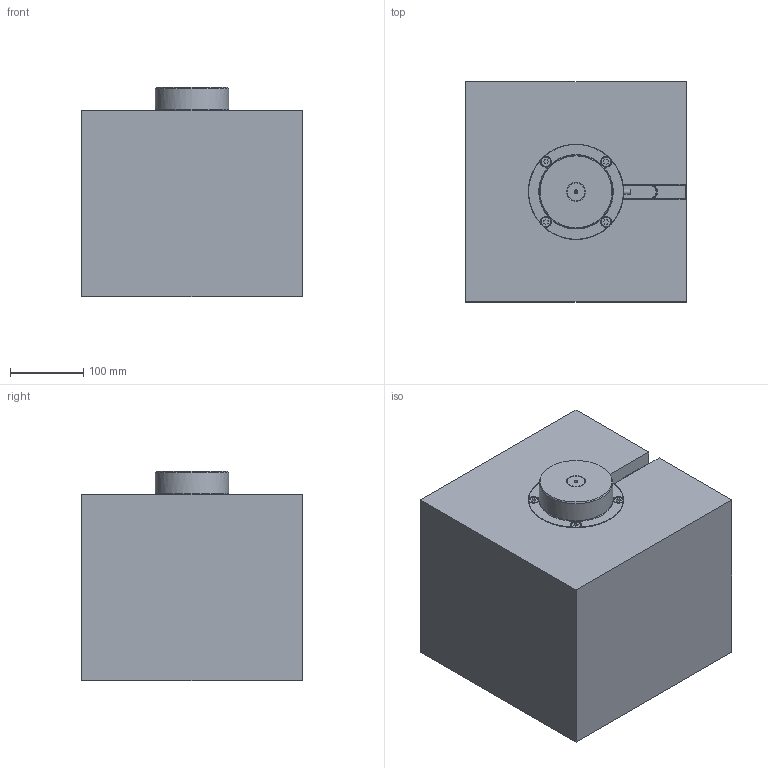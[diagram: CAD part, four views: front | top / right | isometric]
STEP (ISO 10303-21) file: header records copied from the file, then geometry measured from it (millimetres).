
FILE_DESCRIPTION(('STEP AP214'),'1');
FILE_NAME('D:/Trabalho/000_BICOS_SIMPLES/YUDO CZEK/45-2011/REV0/BLS25TLC200_G2_SR0.step','2011-03-23T11:41:04',(' '),(' '),'Spatial InterOp 3D',' ',' ');
FILE_SCHEMA(('automotive_design'));
Length unit declared in the file: millimetre
Products named in the file (15): Cavity; _44; Head Body Heater; HB Thermocouple IC; _53; _55; _58; _61; _64; Bala 25 TLC Bush; TLC intip; Heater; Thermocouple IC; SnapRing25
Bounding box: 300 x 300 x 285 mm (x, y, z)
Volume: 22945460.3 mm3; surface area: 665577.5 mm2
Topology: 15 solids, 15 shells, 394 faces, 917 edges, 579 vertices
Faces by surface type: plane 167, cylinder 140, cone 51, torus 23, bspline 8, sphere 5
Full cylindrical faces by diameter (mm): 1.6 x4, 2.326 x1, 2.5 x3, 2.526 x1, 3 x2, 3.326 x1, 3.6 x1, 4 x2, 4.6 x1, 4.8 x1, 5 x1, 5.6 x1, 6 x1, 6.5 x1, 7 x2, 8 x9, 9 x4, 10.6 x1, 11.6 x1, 12 x2, 13 x4, 14.6 x2, 16 x3, 18 x2, 18.999 x1, 19.001 x1, 23 x1, 23.9 x1, 25 x4, 25.15 x2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
Entity records: 16190 total; most frequent: CARTESIAN_POINT 4639, DIRECTION 1676, ORIENTED_EDGE 1518, EDGE_CURVE 759, AXIS2_PLACEMENT_3D 696, EDGE_LOOP 575, VERTEX_POINT 545, FACE_OUTER_BOUND 479
